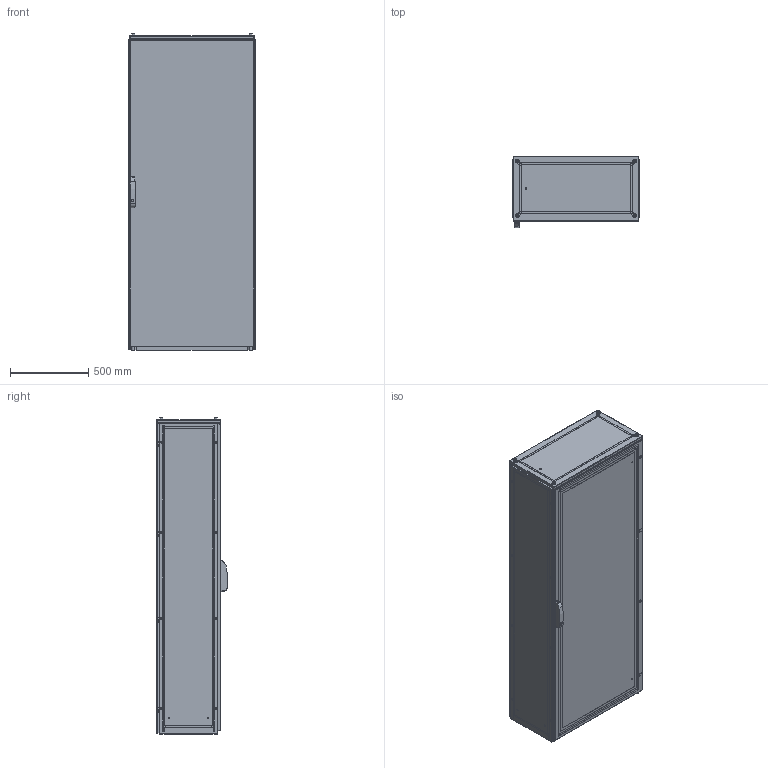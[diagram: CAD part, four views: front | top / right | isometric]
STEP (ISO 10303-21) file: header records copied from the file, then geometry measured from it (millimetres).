
FILE_DESCRIPTION(/* description */ ('STEP AP203'),/* implementation_level */ '2;1');
FILE_NAME(/* name */ 'ENUX-082004PRX-LOD350',/* time_stamp */ '2024-07-01T08:41:46+02:00',/* author */ ('License CC BY-ND 4.0'),/* organization */ ('CADENAS'),/* preprocessor_version */ 'ST-DEVELOPER v19.3',/* originating_system */ 'PARTsolutions',/* authorisation */ ' ');
FILE_SCHEMA (('CONFIG_CONTROL_DESIGN'));
Length unit declared in the file: millimetre
Products named in the file (11): ENUX-082004PRX-LOD350; ENUX-082004PRX-LOD350_CON; ENUX-082004PRX-LOD350_floor1; ENUX-082004PRX-LOD350_floor2; ENUX-082004PRX-LOD350_side; ENUX-082004PRX-LOD350_top; ENUX-082004PRX-LOD350_back_door; ENUX-082004PRX-LOD350_door; ENUX-082004PRX-LOD350_handle; Rosetta 13x24x2.5 architecture 400; Vite M12x20 architecture 400
Assembly tree (18 placements, depth 2):
  ENUX-082004PRX-LOD350
    ENUX-082004PRX-LOD350_CON
    ENUX-082004PRX-LOD350_floor1  x2
    ENUX-082004PRX-LOD350_floor2
    ENUX-082004PRX-LOD350_side  x2
    ENUX-082004PRX-LOD350_top
    ENUX-082004PRX-LOD350_back_door
    ENUX-082004PRX-LOD350_door
    ENUX-082004PRX-LOD350_handle
    Rosetta 13x24x2.5 architecture 400  x4
    Vite M12x20 architecture 400  x4
Bounding box: 812 x 456 x 2023 mm (x, y, z)
Volume: 19156450.9 mm3; surface area: 16541359 mm2
Topology: 18 solids, 18 shells, 2058 faces, 5795 edges, 3756 vertices
Faces by surface type: plane 1021, cylinder 820, cone 123, torus 82, sphere 12
Full cylindrical faces by diameter (mm): 4.5 x144, 6 x21, 6.8 x8, 8 x4, 9 x7, 12 x16, 12.5 x4, 13 x8, 18 x4, 24 x4
Entity records: 55878 total; most frequent: CARTESIAN_POINT 9797, DIRECTION 9617, ORIENTED_EDGE 9088, EDGE_CURVE 4544, AXIS2_PLACEMENT_3D 3415, VERTEX_POINT 3148, LINE 2787, VECTOR 2787
